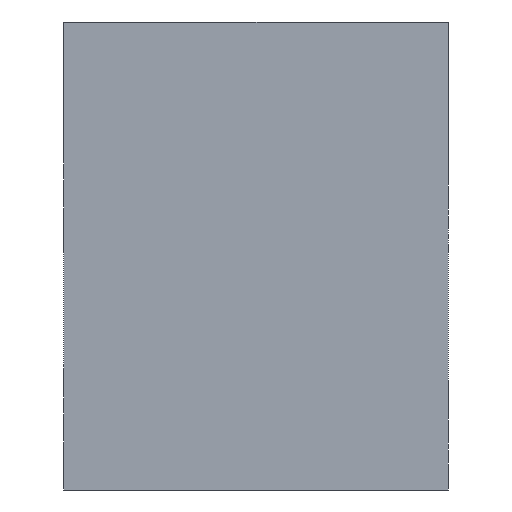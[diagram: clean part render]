
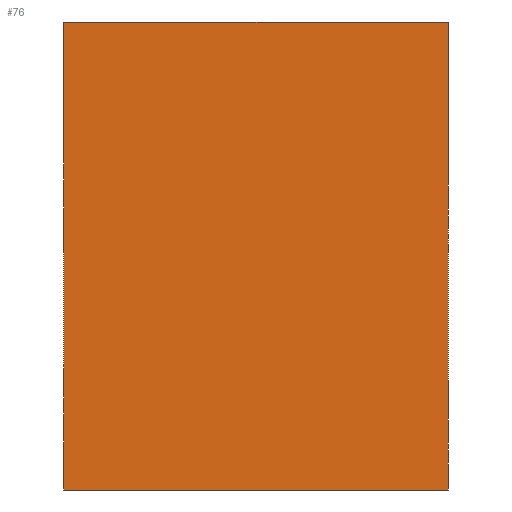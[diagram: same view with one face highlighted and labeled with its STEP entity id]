
A CAD part, left-side view. The second image highlights one B-rep face of the part: STEP entity #76.
In plain terms, the highlighted planar face has unit normal (-1, 0, 0).
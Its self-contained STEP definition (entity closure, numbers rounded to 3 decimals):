
#71=FACE_OUTER_BOUND('',#266,.T.);
#76=ADVANCED_FACE('',(#71),#119,.T.);
#119=PLANE('',#615);
#136=LINE('',#878,#148);
#138=LINE('',#890,#150);
#143=LINE('',#912,#155);
#144=LINE('',#916,#156);
#148=VECTOR('',#692,1.);
#150=VECTOR('',#704,1.);
#155=VECTOR('',#723,1.);
#156=VECTOR('',#728,1.);
#266=EDGE_LOOP('',(#365,#366,#367,#368));
#365=ORIENTED_EDGE('',*,*,#506,.T.);
#366=ORIENTED_EDGE('',*,*,#523,.T.);
#367=ORIENTED_EDGE('',*,*,#512,.F.);
#368=ORIENTED_EDGE('',*,*,#525,.T.);
#452=VERTEX_POINT('',#877);
#453=VERTEX_POINT('',#879);
#458=VERTEX_POINT('',#891);
#459=VERTEX_POINT('',#892);
#506=EDGE_CURVE('',#453,#452,#136,.T.);
#512=EDGE_CURVE('',#458,#459,#138,.T.);
#523=EDGE_CURVE('',#452,#459,#143,.T.);
#525=EDGE_CURVE('',#458,#453,#144,.T.);
#615=AXIS2_PLACEMENT_3D('',#917,#729,#730);
#692=DIRECTION('',(0.,0.,1.));
#704=DIRECTION('',(0.,0.,1.));
#723=DIRECTION('',(0.,1.,0.));
#728=DIRECTION('',(0.,-1.,0.));
#729=DIRECTION('',(-1.,0.,0.));
#730=DIRECTION('',(0.,0.,1.));
#877=CARTESIAN_POINT('',(-35.,-23.,0.));
#878=CARTESIAN_POINT('',(-35.,-23.,-56.));
#879=CARTESIAN_POINT('',(-35.,-23.,-56.));
#890=CARTESIAN_POINT('',(-35.,23.,-56.));
#891=CARTESIAN_POINT('',(-35.,23.,-56.));
#892=CARTESIAN_POINT('',(-35.,23.,0.));
#912=CARTESIAN_POINT('',(-35.,0.,0.));
#916=CARTESIAN_POINT('',(-35.,0.,-56.));
#917=CARTESIAN_POINT('',(-35.,0.,-56.));
